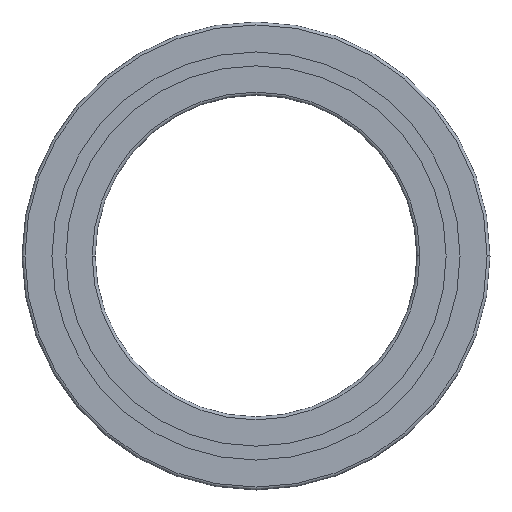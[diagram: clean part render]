
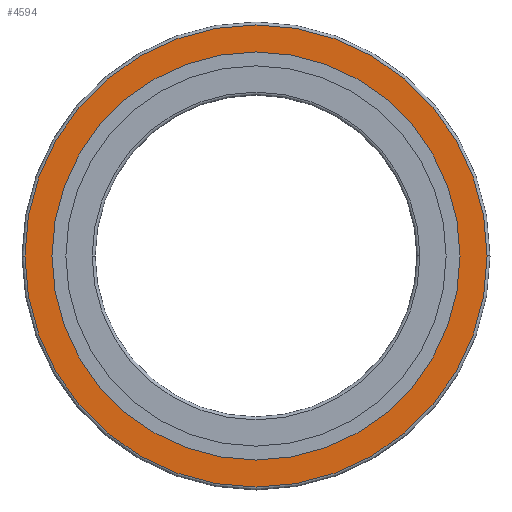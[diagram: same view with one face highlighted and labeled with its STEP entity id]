
A CAD part, front view. The second image highlights one B-rep face of the part: STEP entity #4594.
In plain terms, the highlighted planar face has unit normal (0, -1, 0).
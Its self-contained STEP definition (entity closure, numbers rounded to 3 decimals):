
#3369=CARTESIAN_POINT('POINT355',(69.75,0.,
   0.));
#3370=VERTEX_POINT('VERTEX355',#3369);
#3377=CARTESIAN_POINT('POINT356',(-69.75,0.,
   0.));
#3378=VERTEX_POINT('VERTEX356',#3377);
#3379=CARTESIAN_POINT('POS377',(0.,0.,0.));
#3380=DIRECTION('DIR591',(0.,1.,0.));
#3381=DIRECTION('DIR592',(1.,0.,0.));
#3382=AXIS2_PLACEMENT_3D('AXIS215',#3379,#3380,#3381);
#3383=CIRCLE('ELLIPSE98',#3382,69.75);
#3384=EDGE_CURVE('EDGE543',#3378,#3370,#3383,.T.);
#3404=EDGE_CURVE('EDGE545',#3370,#3378,#3383,.T.);
#4570=CARTESIAN_POINT('POINT421',(79.,0.,
   0.));
#4571=VERTEX_POINT('VERTEX421',#4570);
#4572=CARTESIAN_POINT('POINT422',(-79.,0.,
   0.));
#4573=VERTEX_POINT('VERTEX422',#4572);
#4574=CARTESIAN_POINT('POS475',(0.,0.,0.))
   ;
#4575=DIRECTION('DIR754',(0.,1.,0.));
#4576=DIRECTION('DIR755',(1.,0.,0.));
#4577=AXIS2_PLACEMENT_3D('AXIS280',#4574,#4575,#4576);
#4578=CIRCLE('ELLIPSE131',#4577,79.);
#4579=EDGE_CURVE('EDGE642',#4571,#4573,#4578,.T.);
#4580=ORIENTED_EDGE('COEDGE1219',*,*,#4579,.F.);
#4581=EDGE_CURVE('EDGE643',#4573,#4571,#4578,.T.);
#4582=ORIENTED_EDGE('COEDGE1220',*,*,#4581,.F.);
#4583=EDGE_LOOP('NONE',(#4580,#4582));
#4584=FACE_BOUND('LOOP1',#4583,.T.);
#4585=ORIENTED_EDGE('COEDGE1221',*,*,#3404,.T.);
#4586=ORIENTED_EDGE('COEDGE1222',*,*,#3384,.T.);
#4587=EDGE_LOOP('NONE',(#4585,#4586));
#4588=FACE_BOUND('LOOP1',#4587,.T.);
#4589=CARTESIAN_POINT('POS476',(74.375,0.,
   0.));
#4590=DIRECTION('DIR756',(0.,-1.,0.));
#4591=DIRECTION('DIR757',(1.,0.,0.));
#4592=AXIS2_PLACEMENT_3D('AXIS281',#4589,#4590,#4591);
#4593=PLANE('PLANE72',#4592);
#4594=ADVANCED_FACE('FACE265',(#4584,#4588),#4593,.T.);
